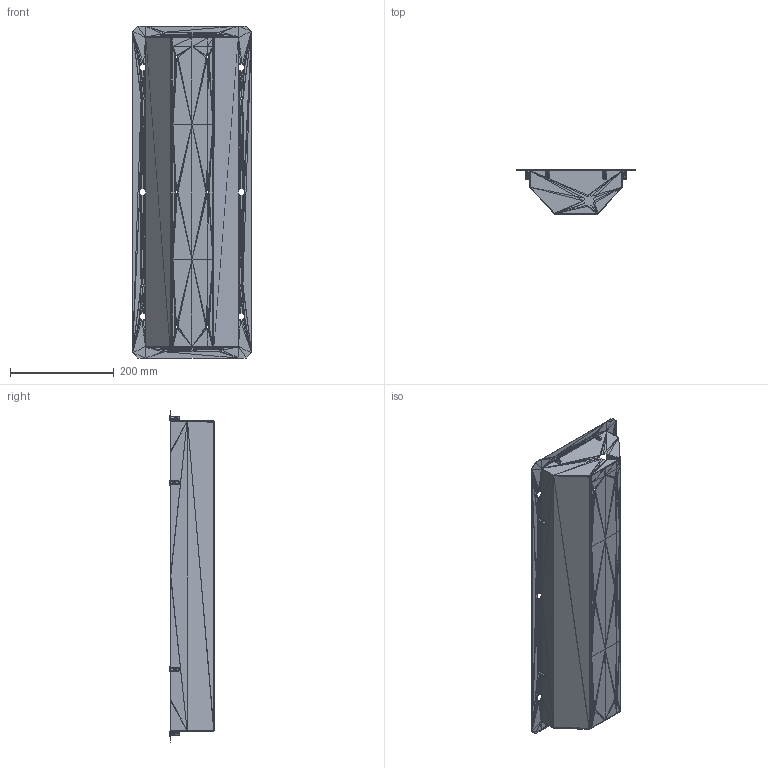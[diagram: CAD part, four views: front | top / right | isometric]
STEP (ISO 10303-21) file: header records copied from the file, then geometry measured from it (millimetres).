
FILE_DESCRIPTION((''),'2;1');
FILE_NAME('000940', '2025-08-12T09:53:17', (''), (''), 'ImageToStl.com STEP Converter','', '');
FILE_SCHEMA(('AUTOMOTIVE_DESIGN_CC2'));
Length unit declared in the file: metre
Products named in the file (1): product0
Bounding box: 229 x 86.9 x 640 mm (x, y, z)
Surface area: 479742.4 mm2 (no closed solid volume)
Topology: 0 solids, 3976 shells, 3976 faces, 11928 edges, 1915 vertices
Faces by surface type: plane 3976
Entity records: 91330 total; most frequent: DIRECTION 19882, ORIENTED_EDGE 11928, EDGE_CURVE 11928, LINE 11928, VECTOR 11928, AXIS2_PLACEMENT_3D 3977, FACE_SURFACE 3976, PLANE 3976
